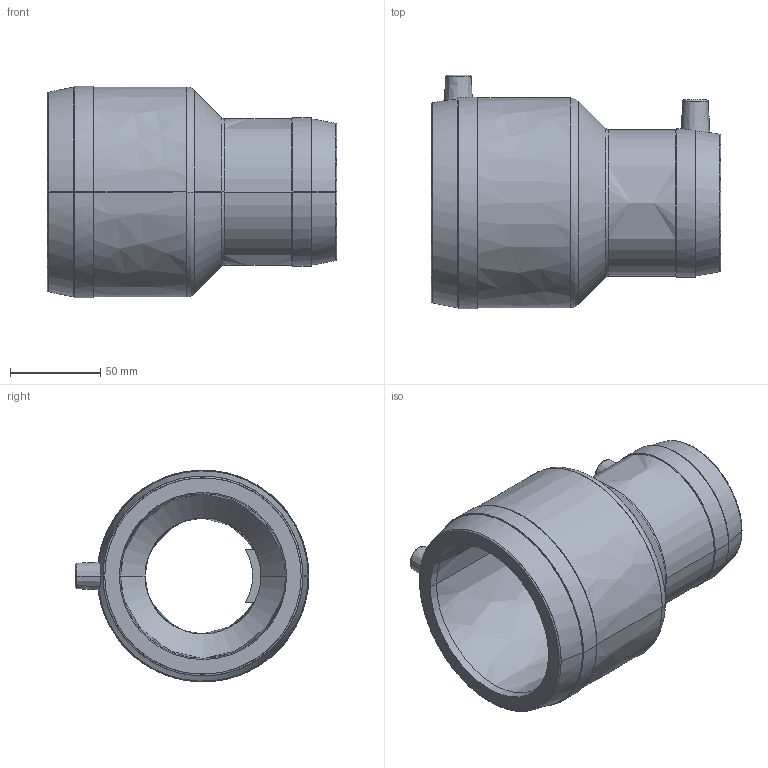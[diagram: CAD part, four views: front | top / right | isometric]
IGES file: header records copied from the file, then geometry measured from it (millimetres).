
Start section:  PTC IGES file: mr_d090-063_01.igs
Global section: file name: mr_d090-063_01.igs; native system: Pro/ENGINEER by Parametric Technology Corporation; preprocessor: 2011490; author: mtunjic; organization: Unknown; date: 20130816.145249; units: millimetre
Bounding box: 160 x 129.1 x 117 mm (x, y, z)
Surface area: 99186.1 mm2 (no closed solid volume)
Topology: 0 solids, 0 shells, 184 faces, 926 edges, 926 vertices
Faces by surface type: bspline 184
